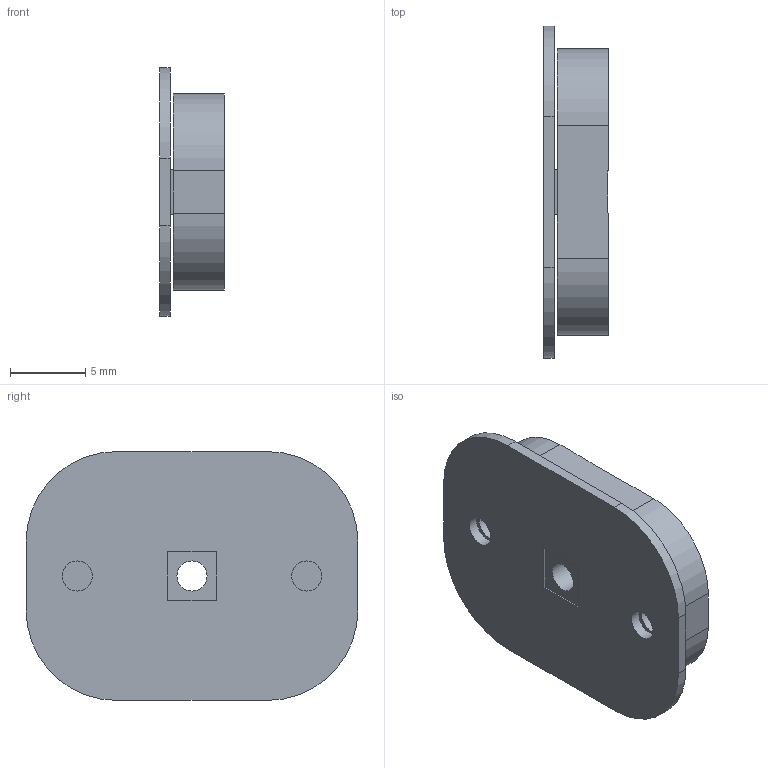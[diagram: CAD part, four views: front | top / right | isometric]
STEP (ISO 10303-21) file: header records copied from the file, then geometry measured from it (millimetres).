
FILE_DESCRIPTION(('Open CASCADE Model'),'2;1');
FILE_NAME('Open CASCADE Shape Model','2026-09-06T11:35:31',('Author'),( 'Open CASCADE'),'Open CASCADE STEP processor 7.7','Open CASCADE 7.7' ,'Unknown');
FILE_SCHEMA(('AUTOMOTIVE_DESIGN { 1 0 10303 214 1 1 1 1 }'));
Length unit declared in the file: millimetre
Products named in the file (1): Open CASCADE STEP translator 7.7 2
Bounding box: 4.3 x 22 x 16.5 mm (x, y, z)
Volume: 818.9 mm3; surface area: 1408.1 mm2
Topology: 1 solids, 1 shells, 48 faces, 123 edges, 82 vertices
Faces by surface type: plane 29, cylinder 17, sphere 2
Full cylindrical faces by diameter (mm): 2 x5
Entity records: 3260 total; most frequent: CARTESIAN_POINT 778, DIRECTION 465, LINE 261, VECTOR 261, ORIENTED_EDGE 246, PCURVE 246, DEFINITIONAL_REPRESENTATION 246, EDGE_CURVE 123
